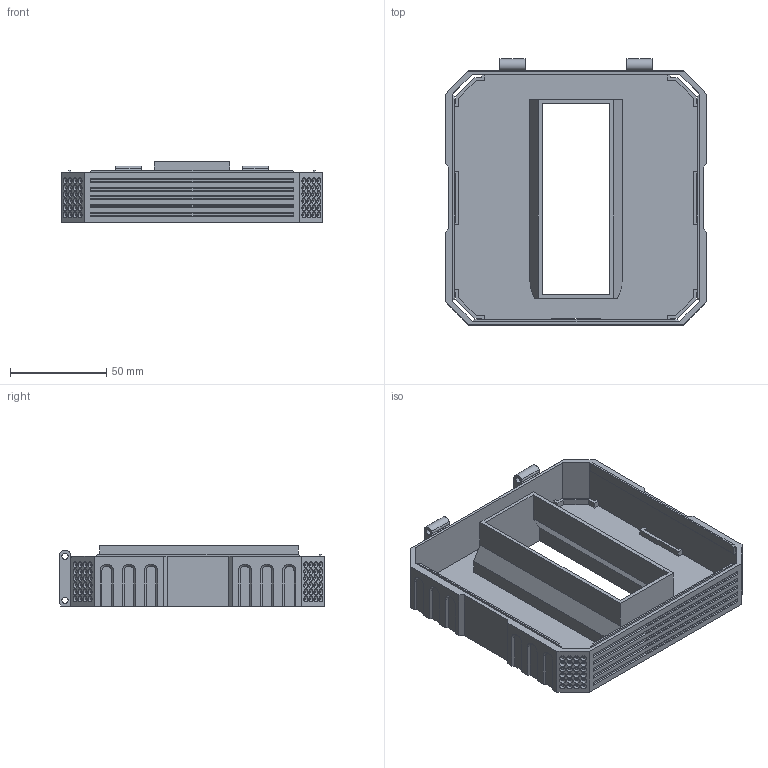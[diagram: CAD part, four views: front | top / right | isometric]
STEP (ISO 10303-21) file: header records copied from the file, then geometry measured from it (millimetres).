
FILE_DESCRIPTION(/* description */ (''),/* implementation_level */ '2;1');
FILE_NAME(/* name */ 'Pav20Mid.step',/* time_stamp */ '2024-05-03T23:09:17+08:00',/* author */ (''),/* organization */ (''),/* preprocessor_version */ 'ST-DEVELOPER v20',/* originating_system */ 'Autodesk Translation Framework v12.20.1.177',/* authorisation */ '');
FILE_SCHEMA (('AUTOMOTIVE_DESIGN { 1 0 10303 214 3 1 1 }'));
Length unit declared in the file: millimetre
Products named in the file (1): Pav20Mid
Bounding box: 136 x 138.2 x 31.33 mm (x, y, z)
Volume: 78336.5 mm3; surface area: 74947.6 mm2
Topology: 3 solids, 3 shells, 479 faces, 1075 edges, 698 vertices
Faces by surface type: plane 354, bspline 96, cylinder 17, cone 12
Full cylindrical faces by diameter (mm): 3.2 x4
Entity records: 15506 total; most frequent: CARTESIAN_POINT 4749, DIRECTION 2197, ORIENTED_EDGE 2150, EDGE_CURVE 1075, AXIS2_PLACEMENT_3D 738, LINE 721, VECTOR 721, VERTEX_POINT 698
